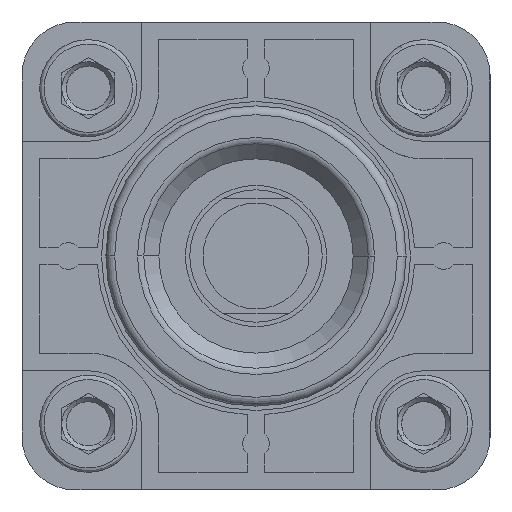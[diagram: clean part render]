
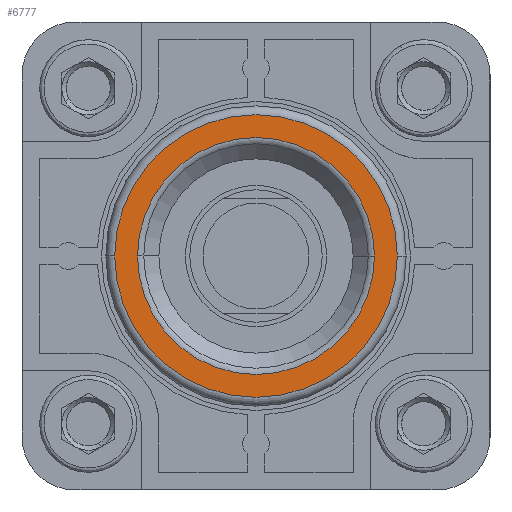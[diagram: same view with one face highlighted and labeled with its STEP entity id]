
A CAD part, left-side view. The second image highlights one B-rep face of the part: STEP entity #6777.
In plain terms, the highlighted planar face has unit normal (-1, 0, 0).
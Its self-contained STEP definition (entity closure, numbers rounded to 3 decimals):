
#5474=CARTESIAN_POINT('Vertex',(-53.5,-16.,0.)) ;
#5481=CARTESIAN_POINT('Vertex',(-53.5,16.,0.)) ;
#5484=CARTESIAN_POINT('Axis2P3D Location',(-53.5,0.,0.)) ;
#5501=CARTESIAN_POINT('Axis2P3D Location',(-53.5,0.,0.)) ;
#6750=CARTESIAN_POINT('Axis2P3D Location',(-53.5,0.,0.)) ;
#6759=CARTESIAN_POINT('Axis2P3D Location',(-53.5,0.,0.)) ;
#6763=CARTESIAN_POINT('Vertex',(-53.5,13.414,0.)) ;
#6765=CARTESIAN_POINT('Vertex',(-53.5,-13.414,0.)) ;
#6768=CARTESIAN_POINT('Axis2P3D Location',(-53.5,0.,0.)) ;
#5485=DIRECTION('Axis2P3D Direction',(-1.,-0.,0.)) ;
#5502=DIRECTION('Axis2P3D Direction',(-1.,0.,0.)) ;
#6751=DIRECTION('Axis2P3D Direction',(-1.,0.,0.)) ;
#6752=DIRECTION('Axis2P3D XDirection',(0.,-1.,0.)) ;
#6760=DIRECTION('Axis2P3D Direction',(-1.,0.,0.)) ;
#6769=DIRECTION('Axis2P3D Direction',(-1.,0.,0.)) ;
#5486=AXIS2_PLACEMENT_3D('Circle Axis2P3D',#5484,#5485,$) ;
#5503=AXIS2_PLACEMENT_3D('Circle Axis2P3D',#5501,#5502,$) ;
#6753=AXIS2_PLACEMENT_3D('Plane Axis2P3D',#6750,#6751,#6752) ;
#6761=AXIS2_PLACEMENT_3D('Circle Axis2P3D',#6759,#6760,$) ;
#6770=AXIS2_PLACEMENT_3D('Circle Axis2P3D',#6768,#6769,$) ;
#6756=ORIENTED_EDGE('',*,*,#5505,.T.) ;
#6757=ORIENTED_EDGE('',*,*,#5488,.T.) ;
#6774=ORIENTED_EDGE('',*,*,#6767,.T.) ;
#6775=ORIENTED_EDGE('',*,*,#6772,.T.) ;
#6776=FACE_BOUND('',#6773,.T.) ;
#6777=ADVANCED_FACE('PartBody',(#6758,#6776),#6754,.T.) ;
#5487=CIRCLE('generated circle',#5486,16.) ;
#5504=CIRCLE('generated circle',#5503,16.) ;
#6762=CIRCLE('generated circle',#6761,13.414) ;
#6771=CIRCLE('generated circle',#6770,13.414) ;
#5488=EDGE_CURVE('',#5475,#5482,#5487,.T.) ;
#5505=EDGE_CURVE('',#5482,#5475,#5504,.T.) ;
#6767=EDGE_CURVE('',#6764,#6766,#6762,.F.) ;
#6772=EDGE_CURVE('',#6766,#6764,#6771,.F.) ;
#6755=EDGE_LOOP('',(#6756,#6757)) ;
#6773=EDGE_LOOP('',(#6774,#6775)) ;
#6758=FACE_OUTER_BOUND('',#6755,.T.) ;
#6754=PLANE('',#6753) ;
#5475=VERTEX_POINT('',#5474) ;
#5482=VERTEX_POINT('',#5481) ;
#6764=VERTEX_POINT('',#6763) ;
#6766=VERTEX_POINT('',#6765) ;
